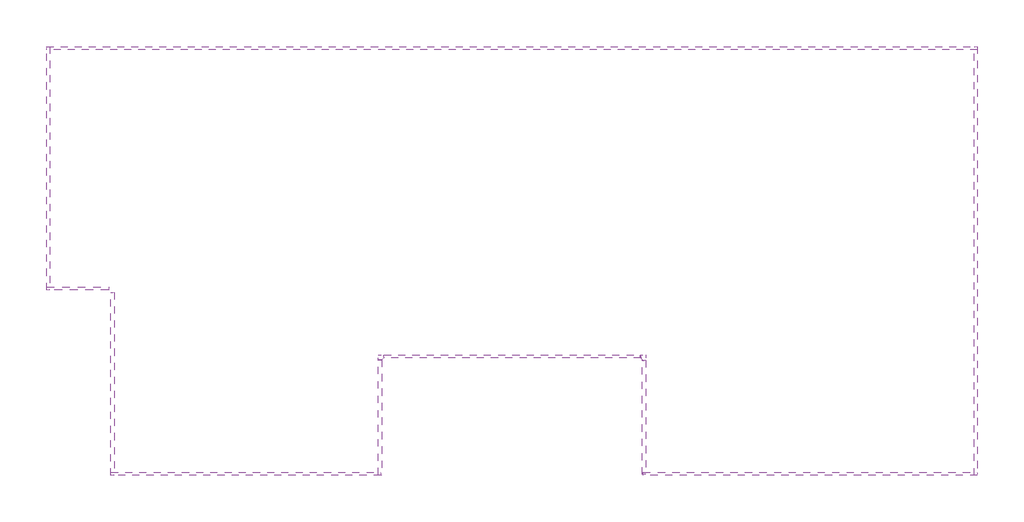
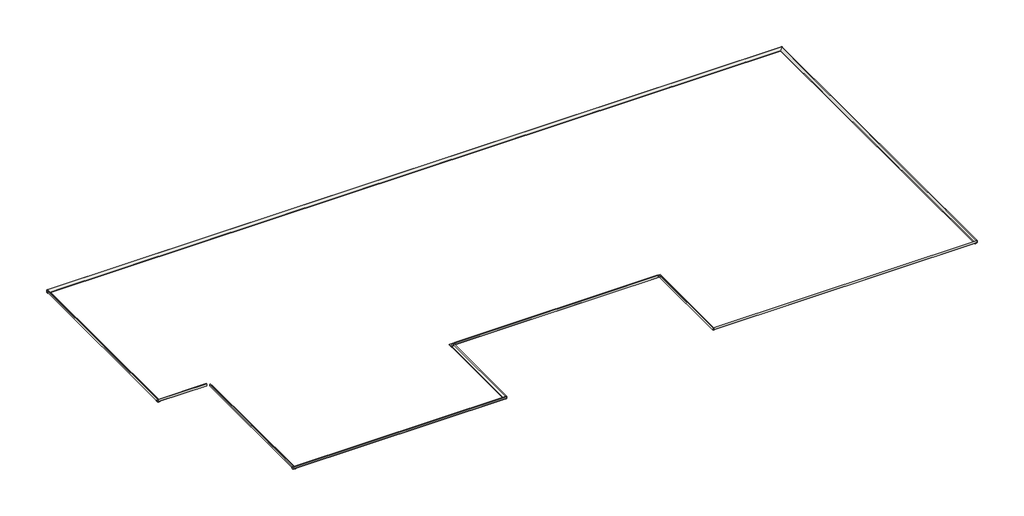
# One storey: 10 slabs, 2 proxies.
"""IFC4 building model written with IfcOpenShell, lengths in millimetres."""

from ifc_helpers import new_model, si_unit, origin, place, context, project, spatial, transform, mapped, element, save
from components import generic_models_e9a23e22, slab_ac93105a, slab_09cf9e1c, slab_b6d2d5f1, slab_79892642, slab_aa2dd5a7, slab_48b8f559, slab_d3536b05, slab_f62a39c5, slab_67165a62, slab_75989376

model = new_model("IFC4")

# Units and contexts
model_context = context("Model", 3, world=origin())
ifc_project = project(units=[si_unit("LENGTHUNIT", "METRE", prefix="MILLI")], contexts=[model_context])

# Site, building, storey
site = spatial("IfcSite", under=ifc_project)
building = spatial("IfcBuilding", under=site)
storey = spatial("IfcBuildingStorey", under=building, Name="4_NFondo2P1 -3.3", Elevation=-3300.0)

# Proxies
placement = place(None, origin())
generic_models_shape = generic_models_e9a23e22(model_context)
element("IfcBuildingElementProxy", 1, Name="ROSA GRES_116 : Pieza 116_Tresor_Java_Anti-Slip", ObjectType="ROSA GRES_116 : Pieza 116_Tresor_Java_Anti-Slip", at=placement, inside=storey, context=model_context, shape_type="MappedRepresentation", body=[
    mapped(generic_models_shape, transform((5710.1343267, 8993.2270206, -1319.9734118), x_axis=(-1.0, 0.0, 0.0), y_axis=(0.0, -1.0, 0.0), z_axis=(0.0, 0.0, 1.0))),
])
element("IfcBuildingElementProxy", 2, Name="ROSA GRES_116 : Pieza 116_Tresor_Java_Anti-Slip", ObjectType="ROSA GRES_116 : Pieza 116_Tresor_Java_Anti-Slip", at=placement, inside=storey, context=model_context, shape_type="MappedRepresentation", body=[
    mapped(generic_models_shape, transform((9031.1343267, 8993.7270206, -1319.9734118), x_axis=(0.0, 1.0, 0.0), y_axis=(-1.0, 0.0, 0.0), z_axis=(0.0, 0.0, 1.0))),
])

# Slabs
slab_shape = slab_ac93105a(model_context)
element("IfcSlab", 3, ObjectType="ROSA GRES_188 : Pieza 188_Tresor_Java_Anti-Slip", at=placement, inside=storey, context=model_context, shape_type="MappedRepresentation", body=[
    mapped(slab_shape, transform((13400.4827381, 13063.7004321, -1319.9734114), x_axis=(0.0, -1.0, 0.0), y_axis=(1.0, 0.0, 0.0), z_axis=(0.0, 0.0, 1.0))),
])
slab_2_shape = slab_09cf9e1c(model_context)
element("IfcSlab", 4, ObjectType="ROSA GRES_188 : Pieza 188_Tresor_Java_Anti-Slip", at=placement, inside=storey, context=model_context, shape_type="MappedRepresentation", body=[
    mapped(slab_2_shape, transform((9070.5093267, 7503.7536092, -1319.9734114), x_axis=(1.0, 0.0, 0.0), y_axis=(0.0, 1.0, 0.0), z_axis=(0.0, 0.0, 1.0))),
])
slab_3_shape = slab_b6d2d5f1(model_context)
element("IfcSlab", 5, ObjectType="ROSA GRES_188 : Pieza 188_Tresor_Java_Anti-Slip", at=placement, inside=storey, context=model_context, shape_type="MappedRepresentation", body=[
    mapped(slab_3_shape, transform((1340.5359152, 9905.0036092, -1319.9734114), x_axis=(1.0, 0.0, 0.0), y_axis=(0.0, 1.0, 0.0), z_axis=(0.0, 0.0, 1.0))),
])
slab_4_shape = slab_79892642(model_context)
element("IfcSlab", 6, ObjectType="ROSA GRES_188 : Pieza 188_Tresor_Java_Anti-Slip", at=placement, inside=storey, context=model_context, shape_type="MappedRepresentation", body=[
    mapped(slab_4_shape, transform((2175.5359152, 9875.0344149, -1319.9734114), x_axis=(0.0, -1.0, 0.0), y_axis=(1.0, 0.0, 0.0), z_axis=(0.0, 0.0, 1.0))),
])
slab_5_shape = slab_aa2dd5a7(model_context)
element("IfcSlab", 7, ObjectType="ROSA GRES_188 : Pieza 188_Tresor_Java_Anti-Slip", at=placement, inside=storey, context=model_context, shape_type="MappedRepresentation", body=[
    mapped(slab_5_shape, transform((2175.5359152, 7503.7536092, -1319.9734114), x_axis=(1.0, 0.0, 0.0), y_axis=(0.0, 1.0, 0.0), z_axis=(0.0, 0.0, 1.0))),
])
slab_6_shape = slab_48b8f559(model_context)
element("IfcSlab", 8, ObjectType="ROSA GRES_188 : Pieza 188_Tresor_Java_Anti-Slip", at=placement, inside=storey, context=model_context, shape_type="MappedRepresentation", body=[
    mapped(slab_6_shape, transform((1340.5359152, 13063.7004321, -1319.9734114), x_axis=(1.0, 0.0, 0.0), y_axis=(0.0, 1.0, 0.0), z_axis=(0.0, 0.0, 1.0))),
])
slab_7_shape = slab_d3536b05(model_context)
element("IfcSlab", 9, ObjectType="ROSA GRES_188 : Pieza 188_Tresor_Java_Anti-Slip", at=placement, inside=storey, context=model_context, shape_type="MappedRepresentation", body=[
    mapped(slab_7_shape, transform((1340.5359152, 13063.7004321, -1319.9734114), x_axis=(0.0, -1.0, 0.0), y_axis=(1.0, 0.0, 0.0), z_axis=(0.0, 0.0, 1.0))),
])
slab_8_shape = slab_f62a39c5(model_context)
element("IfcSlab", 10, ObjectType="ROSA GRES_188 : Pieza 188_Tresor_Java_Anti-Slip", at=placement, inside=storey, context=model_context, shape_type="MappedRepresentation", body=[
    mapped(slab_8_shape, transform((5680.4827381, 7503.7536092, -1319.9734114), x_axis=(0.0, 1.0, 0.0), y_axis=(-1.0, 0.0, 0.0), z_axis=(0.0, 0.0, 1.0))),
])
slab_9_shape = slab_67165a62(model_context)
element("IfcSlab", 11, ObjectType="ROSA GRES_188 : Pieza 188_Tresor_Java_Anti-Slip", at=placement, inside=storey, context=model_context, shape_type="MappedRepresentation", body=[
    mapped(slab_9_shape, transform((9060.5359152, 7513.7270206, -1319.9734114), x_axis=(0.0, 1.0, 0.0), y_axis=(-1.0, 0.0, 0.0), z_axis=(0.0, 0.0, 1.0))),
])
slab_10_shape = slab_75989376(model_context)
element("IfcSlab", 12, ObjectType="ROSA GRES_188 : Pieza 188_Tresor_Java_Anti-Slip", at=placement, inside=storey, context=model_context, shape_type="MappedRepresentation", body=[
    mapped(slab_10_shape, transform((5710.4827381, 9023.7536092, -1319.9734114), x_axis=(1.0, 0.0, 0.0), y_axis=(0.0, 1.0, 0.0), z_axis=(0.0, 0.0, 1.0))),
])

save(model, "model.ifc")
